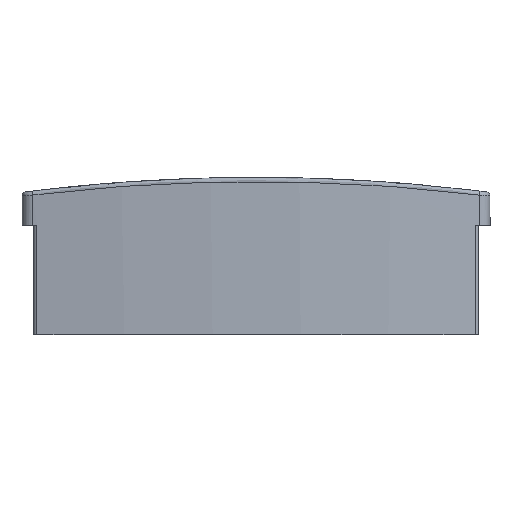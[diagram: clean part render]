
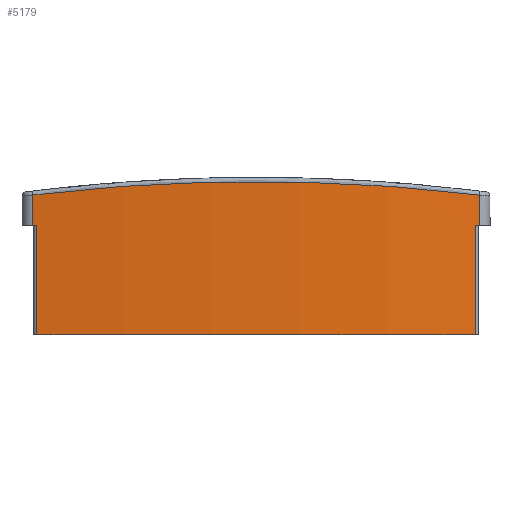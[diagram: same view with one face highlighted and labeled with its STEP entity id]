
A CAD part, front view. The second image highlights one B-rep face of the part: STEP entity #5179.
In plain terms, the highlighted cylindrical face has radius 630.521 mm (diameter 1261.04 mm), a partial arc.
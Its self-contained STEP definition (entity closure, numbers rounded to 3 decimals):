
#495=LINE('',#12402,#906);
#496=LINE('',#12407,#907);
#497=LINE('',#12416,#908);
#498=LINE('',#12419,#909);
#906=VECTOR('',#6560,10.);
#907=VECTOR('',#6565,10.);
#908=VECTOR('',#6566,10.);
#909=VECTOR('',#6569,10.);
#1129=CYLINDRICAL_SURFACE('',#5594,630.521);
#1349=FACE_OUTER_BOUND('',#1654,.T.);
#1654=EDGE_LOOP('',(#4436,#4437,#4438,#4439,#4440,#4441,#4442,#4443));
#1922=B_SPLINE_CURVE_WITH_KNOTS('',3,(#12409,#12410,#12411,#12412,#12413,
#12414),.UNSPECIFIED.,.F.,.F.,(4,1,1,4),(0.,6.22,12.441,
21.771),.UNSPECIFIED.);
#2056=CIRCLE('',#5589,630.521);
#2060=CIRCLE('',#5595,630.521);
#2061=CIRCLE('',#5596,630.521);
#2456=VERTEX_POINT('',#12388);
#2457=VERTEX_POINT('',#12390);
#2461=VERTEX_POINT('',#12400);
#2462=VERTEX_POINT('',#12404);
#2463=VERTEX_POINT('',#12406);
#2464=VERTEX_POINT('',#12408);
#2465=VERTEX_POINT('',#12415);
#2466=VERTEX_POINT('',#12417);
#3143=EDGE_CURVE('',#2456,#2457,#2056,.T.);
#3149=EDGE_CURVE('',#2461,#2456,#495,.T.);
#3150=EDGE_CURVE('',#2461,#2462,#2060,.T.);
#3151=EDGE_CURVE('',#2462,#2463,#496,.T.);
#3152=EDGE_CURVE('',#2464,#2463,#1922,.T.);
#3153=EDGE_CURVE('',#2465,#2464,#497,.T.);
#3154=EDGE_CURVE('',#2465,#2466,#2061,.T.);
#3155=EDGE_CURVE('',#2457,#2466,#498,.T.);
#4436=ORIENTED_EDGE('',*,*,#3149,.F.);
#4437=ORIENTED_EDGE('',*,*,#3150,.T.);
#4438=ORIENTED_EDGE('',*,*,#3151,.T.);
#4439=ORIENTED_EDGE('',*,*,#3152,.F.);
#4440=ORIENTED_EDGE('',*,*,#3153,.F.);
#4441=ORIENTED_EDGE('',*,*,#3154,.T.);
#4442=ORIENTED_EDGE('',*,*,#3155,.F.);
#4443=ORIENTED_EDGE('',*,*,#3143,.F.);
#5179=ADVANCED_FACE('',(#1349),#1129,.T.);
#5589=AXIS2_PLACEMENT_3D('',#12391,#6548,#6549);
#5594=AXIS2_PLACEMENT_3D('',#12403,#6561,#6562);
#5595=AXIS2_PLACEMENT_3D('',#12405,#6563,#6564);
#5596=AXIS2_PLACEMENT_3D('',#12418,#6567,#6568);
#6548=DIRECTION('center_axis',(0.,0.,-1.));
#6549=DIRECTION('ref_axis',(-0.144,-0.99,0.));
#6560=DIRECTION('',(0.,0.,-1.));
#6561=DIRECTION('center_axis',(0.,0.,-1.));
#6562=DIRECTION('ref_axis',(-0.144,-0.99,0.));
#6563=DIRECTION('center_axis',(0.,0.,1.));
#6564=DIRECTION('ref_axis',(-0.144,-0.99,0.));
#6565=DIRECTION('',(0.,0.,1.));
#6566=DIRECTION('',(0.,0.,1.));
#6567=DIRECTION('center_axis',(0.,0.,1.));
#6568=DIRECTION('ref_axis',(-0.144,-0.99,0.));
#6569=DIRECTION('',(0.,0.,1.));
#12388=CARTESIAN_POINT('',(219.892,-101.52,-57.));
#12390=CARTESIAN_POINT('',(7.217,-107.424,-57.));
#12391=CARTESIAN_POINT('Origin',(96.309,516.771,-57.));
#12400=CARTESIAN_POINT('',(219.892,-101.52,-4.));
#12402=CARTESIAN_POINT('',(219.892,-101.52,0.));
#12403=CARTESIAN_POINT('Origin',(96.309,516.771,0.));
#12404=CARTESIAN_POINT('',(222.024,-101.09,-4.));
#12405=CARTESIAN_POINT('Origin',(96.309,516.771,-4.));
#12406=CARTESIAN_POINT('',(222.024,-101.09,10.658));
#12407=CARTESIAN_POINT('',(222.024,-101.09,0.));
#12408=CARTESIAN_POINT('',(5.318,-107.15,10.686));
#12409=CARTESIAN_POINT('Ctrl Pts',(5.318,-107.15,10.686));
#12410=CARTESIAN_POINT('Ctrl Pts',(25.752,-110.13,13.174));
#12411=CARTESIAN_POINT('Ctrl Pts',(67.079,-114.101,16.769));
#12412=CARTESIAN_POINT('Ctrl Pts',(140.007,-113.875,18.013));
#12413=CARTESIAN_POINT('Ctrl Pts',(191.668,-107.267,14.361));
#12414=CARTESIAN_POINT('Ctrl Pts',(222.024,-101.09,10.658));
#12415=CARTESIAN_POINT('',(5.318,-107.15,-4.));
#12416=CARTESIAN_POINT('',(5.318,-107.15,0.));
#12417=CARTESIAN_POINT('',(7.217,-107.424,-4.));
#12418=CARTESIAN_POINT('Origin',(96.309,516.771,-4.));
#12419=CARTESIAN_POINT('',(7.217,-107.424,0.));
